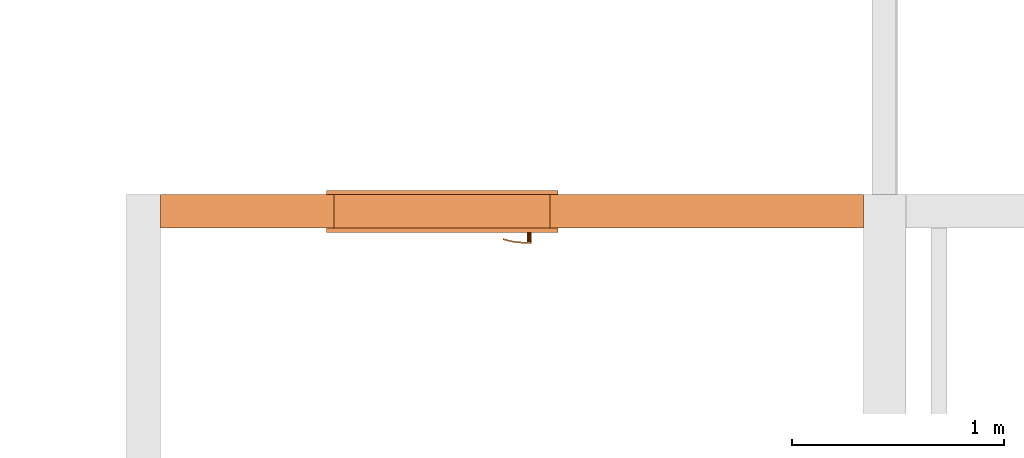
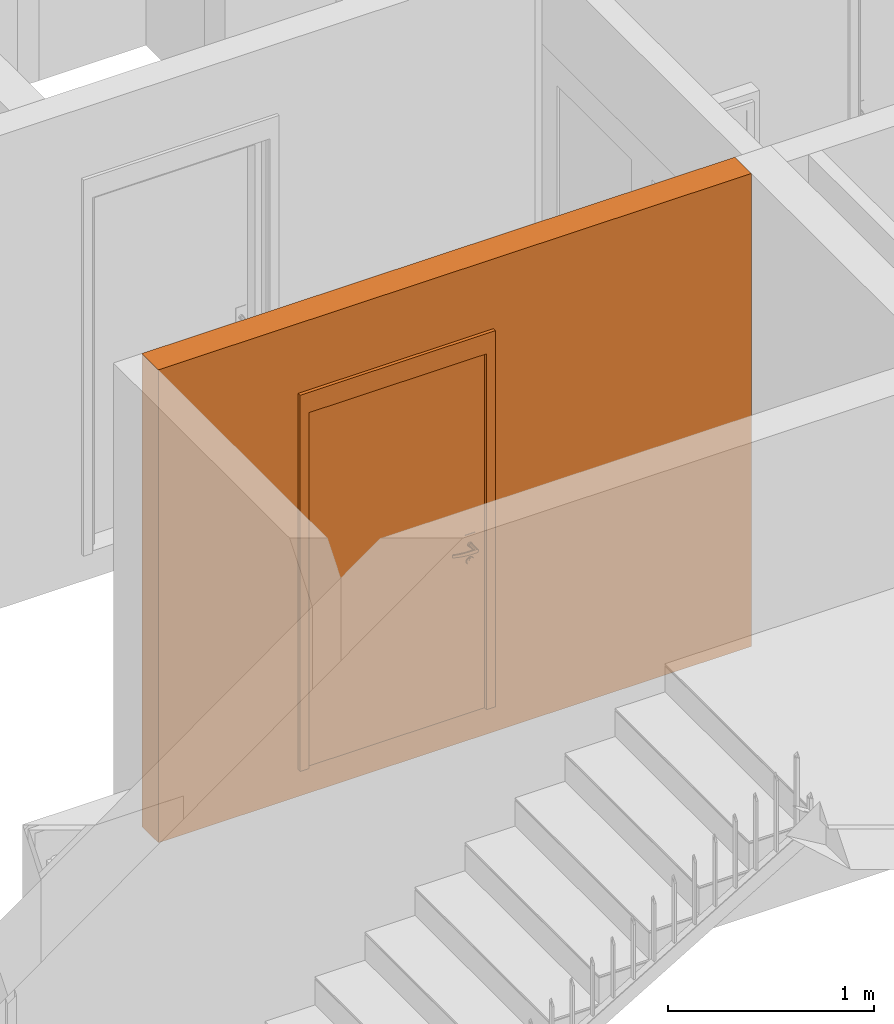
# One storey, part 20 of 64: 2 proxies, 1 opening.
"""IFC2X3 building model written with IfcOpenShell, lengths in millimetres."""

from ifc_helpers import new_model, entity, si_unit, converted_unit, derived_unit, money_unit, direction, frame, origin_with_axes, origin_2d_with_axis, place, context, subcontext, project, spatial, rectangle, extrude, open_shell, faceted_brep, surface_model, source, transform, mapped, material, type_object, element, fill, save


model = new_model("IFC2X3")

# Units and contexts
model_context = context("Model", 3, precision=0.01, world=origin_with_axes(), true_north=direction((0.34421633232, 0.938890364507)))
body_context = subcontext(model_context, "Body", "Model", "MODEL_VIEW")
ifc_project = project(units=[si_unit("LENGTHUNIT", "METRE", prefix="MILLI"), si_unit("AREAUNIT", "SQUARE_METRE"), si_unit("VOLUMEUNIT", "CUBIC_METRE"), converted_unit("PLANEANGLEUNIT", "DEGREE", entity("IfcPlaneAngleMeasure", 0.0174532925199), si_unit("PLANEANGLEUNIT", "RADIAN"), dimensions=[0, 0, 0, 0, 0, 0, 0]), si_unit("SOLIDANGLEUNIT", "STERADIAN"), money_unit("USD"), converted_unit("TIMEUNIT", "Year", entity("IfcTimeMeasure", 31556926.0), si_unit("TIMEUNIT", "SECOND"), dimensions=[0, 0, 1, 0, 0, 0, 0]), si_unit("MASSUNIT", "GRAM", prefix="KILO"), si_unit("THERMODYNAMICTEMPERATUREUNIT", "DEGREE_CELSIUS"), si_unit("LUMINOUSINTENSITYUNIT", "LUMEN"), si_unit("ENERGYUNIT", "JOULE", prefix="MEGA"), derived_unit("THERMALCONDUCTANCEUNIT", [(si_unit("POWERUNIT", "WATT"), 1), (si_unit("LENGTHUNIT", "METRE"), -1), (si_unit("THERMODYNAMICTEMPERATUREUNIT", "KELVIN"), -1)]), derived_unit("SPECIFICHEATCAPACITYUNIT", [(si_unit("ENERGYUNIT", "JOULE"), 1), (si_unit("MASSUNIT", "GRAM", prefix="KILO"), -1), (si_unit("THERMODYNAMICTEMPERATUREUNIT", "KELVIN"), -1)]), derived_unit("MASSDENSITYUNIT", [(si_unit("MASSUNIT", "GRAM", prefix="KILO"), 1), (si_unit("VOLUMEUNIT", "CUBIC_METRE"), -1)])], contexts=[model_context])

# Site, building, storey
site_placement = place(None, origin_with_axes())
site = spatial("IfcSite", under=ifc_project, at=site_placement, Name="USTRONIE MORSKIE", CompositionType="ELEMENT")
building_placement = place(site_placement, origin_with_axes())
building = spatial("IfcBuilding", under=site, at=building_placement, Name="Budynek", CompositionType="ELEMENT")
storey_placement = place(building_placement, frame((0.0, 0.0, 7000.0), z_axis=(0.0, 0.0, 1.0), x_axis=(1.0, 0.0, 0.0)))
storey = spatial("IfcBuildingStorey", under=building, at=storey_placement, Name="PIĘTRO 2", CompositionType="ELEMENT", Elevation=7000.0)

# Proxies, opening
ifc_material = material(Name="Beton konstrukcyjny B25")
building_element_proxy_type_1 = type_object("IfcBuildingElementProxyType", Name="Beton konstrukcyjny B25 160", PredefinedType="NOTDEFINED")
proxy_1_placement = place(storey_placement, frame((396317.920919, 734751.202821, -160.0), z_axis=(0.0, 0.0, 1.0), x_axis=(-1.0, 3.09952838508e-07, 0.0)))
proxy_1 = element("IfcBuildingElementProxy", 1, at=proxy_1_placement, inside=storey, type_object=building_element_proxy_type_1, material=ifc_material, Name="SW-01", context=body_context, shape_type="Brep", body=[
    faceted_brep([(3419.99997519, 80.0, 2800.0), (99.9999751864, 80.0, 2800.0), (100.000024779, -80.0000000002, 2800.0), (3420.00002478, -80.0, 2800.0), (3419.99997519, 80.0, 0.0), (99.9999751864, 80.0, 0.0), (100.000024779, -80.0000000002, 0.0), (3420.00002478, -80.0, 0.0)], [[[0, 1, 2, 3]], [[4, 5, 1, 0]], [[5, 6, 2, 1]], [[3, 2, 6, 7]], [[0, 3, 7, 4]], [[7, 6, 5, 4]]]),
])
opening_placement = place(proxy_1_placement, frame((2090.00061989, 0.0, 160.0), z_axis=(0.0, 0.0, 1.0), x_axis=(1.0, 0.0, 0.0)))
opening = element("IfcOpeningElement", 2, at=opening_placement, cuts=proxy_1, Name="Dw.2", context=body_context, shape_type="SweptSolid", body=[
    extrude(rectangle(XDim=1020.0, YDim=2120.0, at=origin_2d_with_axis()), frame((0.0, -160.0, 1060.0), z_axis=(0.0, 1.0, 0.0), x_axis=(1.0, 0.0, 0.0)), (0.0, 0.0, 1.0), 480.0),
    extrude(rectangle(XDim=1094.0, YDim=2227.0, at=origin_2d_with_axis()), frame((0.0, -80.0000000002, 1113.5), z_axis=(0.0, 1.0, 0.0), x_axis=(1.0, 0.0, 0.0)), (0.0, 0.0, -1.0), 160.0),
    extrude(rectangle(XDim=1094.0, YDim=2227.0, at=origin_2d_with_axis()), frame((0.0, 79.9999999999, 1113.5), z_axis=(0.0, -1.0, 0.0), x_axis=(1.0, 0.0, 0.0)), (0.0, 0.0, -1.0), 160.0),
])
building_element_proxy_type_2 = type_object("IfcBuildingElementProxyType", Name="Drzwi 23", PredefinedType="NOTDEFINED")
shared_shape = source(origin_with_axes(), body_context, "Body", "SurfaceModel", [
    faceted_brep([(-510.0, -115.0, 0.0), (-485.0, -115.0, 0.0), (-485.0, -160.0, 0.0), (-510.0, -160.0, 0.0), (-510.0, -115.0, 2120.0), (-485.0, -115.0, 2095.0), (-485.0, -160.0, 2095.0), (-510.0, -160.0, 2120.0)], [[[0, 1, 2, 3]], [[0, 4, 5, 1]], [[1, 5, 6, 2]], [[3, 2, 6, 7]], [[4, 0, 3, 7]], [[5, 4, 7, 6]]]),
    faceted_brep([(510.0, -115.0, 2120.0), (485.0, -115.0, 2095.0), (485.0, -160.0, 2095.0), (510.0, -160.0, 2120.0), (510.0, -115.0, 0.0), (485.0, -115.0, 0.0), (485.0, -160.0, 0.0), (510.0, -160.0, 0.0)], [[[0, 1, 2, 3]], [[0, 4, 5, 1]], [[1, 5, 6, 2]], [[3, 2, 6, 7]], [[4, 0, 3, 7]], [[5, 4, 7, 6]]]),
    faceted_brep([(-485.0, -115.0, 2095.0), (485.0, -115.0, 2095.0), (485.0, -160.0, 2095.0), (-485.0, -160.0, 2095.0), (-510.0, -115.0, 2120.0), (510.0, -115.0, 2120.0), (510.0, -160.0, 2120.0), (-510.0, -160.0, 2120.0)], [[[0, 1, 2, 3]], [[0, 4, 5, 1]], [[1, 5, 6, 2]], [[3, 2, 6, 7]], [[4, 0, 3, 7]], [[5, 4, 7, 6]]]),
    faceted_brep([(-547.0, -179.0, 0.0), (-547.0, -160.0, 0.0), (-497.0, -160.0, 0.0), (-497.0, -179.0, 0.0), (-547.0, -179.0, 2227.0), (-547.0, -160.0, 2227.0), (-497.0, -160.0, 2107.0), (-497.0, -179.0, 2107.0)], [[[0, 1, 2, 3]], [[4, 5, 1, 0]], [[1, 5, 6, 2]], [[3, 2, 6, 7]], [[0, 3, 7, 4]], [[7, 6, 5, 4]]]),
    faceted_brep([(547.0, -179.0, 2227.0), (547.0, -160.0, 2227.0), (497.0, -160.0, 2107.0), (497.0, -179.0, 2107.0), (547.0, -179.0, 0.0), (547.0, -160.0, 0.0), (497.0, -160.0, 0.0), (497.0, -179.0, 0.0)], [[[0, 1, 2, 3]], [[4, 5, 1, 0]], [[1, 5, 6, 2]], [[3, 2, 6, 7]], [[0, 3, 7, 4]], [[7, 6, 5, 4]]]),
    faceted_brep([(-547.0, -179.0, 2227.0), (-547.0, -160.0, 2227.0), (-497.0, -160.0, 2107.0), (-497.0, -179.0, 2107.0), (547.0, -179.0, 2227.0), (547.0, -160.0, 2227.0), (497.0, -160.0, 2107.0), (497.0, -179.0, 2107.0)], [[[0, 1, 2, 3]], [[4, 5, 1, 0]], [[1, 5, 6, 2]], [[3, 2, 6, 7]], [[0, 3, 7, 4]], [[7, 6, 5, 4]]]),
    faceted_brep([(-547.0, 19.0, 0.0), (-497.0, 19.0, 0.0), (-497.0, 0.0, 0.0), (-547.0, 0.0, 0.0), (-547.0, 19.0, 2227.0), (-497.0, 19.0, 2107.0), (-497.0, 0.0, 2107.0), (-547.0, 0.0, 2227.0)], [[[0, 1, 2, 3]], [[0, 4, 5, 1]], [[1, 5, 6, 2]], [[3, 2, 6, 7]], [[4, 0, 3, 7]], [[5, 4, 7, 6]]]),
    faceted_brep([(547.0, 19.0, 2227.0), (497.0, 19.0, 2107.0), (497.0, 0.0, 2107.0), (547.0, 0.0, 2227.0), (547.0, 19.0, 0.0), (497.0, 19.0, 0.0), (497.0, 0.0, 0.0), (547.0, 0.0, 0.0)], [[[0, 1, 2, 3]], [[0, 4, 5, 1]], [[1, 5, 6, 2]], [[3, 2, 6, 7]], [[4, 0, 3, 7]], [[5, 4, 7, 6]]]),
    faceted_brep([(-547.0, 19.0, 2227.0), (-497.0, 19.0, 2107.0), (-497.0, 0.0, 2107.0), (-547.0, 0.0, 2227.0), (547.0, 19.0, 2227.0), (497.0, 19.0, 2107.0), (497.0, 0.0, 2107.0), (547.0, 0.0, 2227.0)], [[[0, 1, 2, 3]], [[0, 4, 5, 1]], [[1, 5, 6, 2]], [[3, 2, 6, 7]], [[4, 0, 3, 7]], [[5, 4, 7, 6]]]),
    faceted_brep([(-450.0, -40.0, 0.0), (-450.0, -40.0, 2050.0), (-450.0, -115.0, 2050.0), (-450.0, -115.0, 0.0), (-462.0, -40.0, 2050.0), (-462.0, -40.0, 0.0), (-462.0, 0.0, 2050.0), (-510.0, 0.0, 2050.0), (-510.0, -115.0, 2050.0), (-510.0, -115.0, 0.0), (-510.0, 0.0, 0.0), (-462.0, 0.0, 0.0)], [[[0, 1, 2, 3]], [[4, 1, 0, 5]], [[4, 6, 7, 8, 2, 1]], [[3, 2, 8, 9]], [[5, 0, 3, 9, 10, 11]], [[6, 4, 5, 11]], [[6, 11, 10, 7]], [[10, 9, 8, 7]]]),
    faceted_brep([(462.0, -40.0, 2050.0), (450.0, -40.0, 2050.0), (450.0, -115.0, 2050.0), (510.0, -115.0, 2050.0), (510.0, 0.0, 2050.0), (462.0, 0.0, 2050.0), (462.0, -40.0, 0.0), (450.0, -40.0, 0.0), (450.0, -115.0, 0.0), (510.0, -115.0, 0.0), (510.0, 0.0, 0.0), (462.0, 0.0, 0.0)], [[[0, 1, 2, 3, 4, 5]], [[1, 0, 6, 7]], [[1, 7, 8, 2]], [[3, 2, 8, 9]], [[4, 3, 9, 10]], [[11, 5, 4, 10]], [[0, 5, 11, 6]], [[6, 11, 10, 9, 8, 7]]]),
    faceted_brep([(-462.0, 0.0, 2062.0), (-462.0, 0.0, 2050.0), (-510.0, 0.0, 2050.0), (-510.0, 0.0, 2120.0), (510.0, 0.0, 2120.0), (510.0, 0.0, 2050.0), (462.0, 0.0, 2050.0), (462.0, 0.0, 2062.0), (-462.0, -40.0, 2062.0), (-462.0, -40.0, 2050.0), (-450.0, -40.0, 2050.0), (-450.0, -115.0, 2050.0), (-510.0, -115.0, 2050.0), (-510.0, -115.0, 2120.0), (510.0, -115.0, 2120.0), (510.0, -115.0, 2050.0), (462.0, -40.0, 2050.0), (450.0, -115.0, 2050.0), (450.0, -40.0, 2050.0), (462.0, -40.0, 2062.0)], [[[0, 1, 2, 3, 4, 5, 6, 7]], [[1, 0, 8, 9]], [[9, 10, 11, 12, 2, 1]], [[2, 12, 13, 3]], [[3, 13, 14, 4]], [[4, 14, 15, 5]], [[16, 6, 5, 15, 17, 18]], [[7, 6, 16, 19]], [[0, 7, 19, 8]], [[16, 18, 10, 9, 8, 19]], [[10, 18, 17, 11]], [[17, 15, 14, 13, 12, 11]]]),
    faceted_brep([(-440.5, -40.0, 1060.0), (-440.5, -43.0, 1060.0), (-383.5, -43.0, 1060.0), (-383.5, -40.0, 1060.0), (-440.5, -40.0, 870.0), (-440.5, -43.0, 870.0), (-383.5, -43.0, 870.0), (-383.5, -40.0, 870.0)], [[[0, 1, 2, 3]], [[4, 5, 1, 0]], [[1, 5, 6, 2]], [[3, 2, 6, 7]], [[0, 3, 7, 4]], [[7, 6, 5, 4]]]),
    faceted_brep([(-412.0, -104.0, 990.0), (-412.0, -111.0, 990.0), (-417.0, -111.0, 991.339745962), (-417.0, -104.0, 991.339745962), (-387.0, -104.0, 990.0), (-387.0, -111.0, 990.0), (-387.0, -111.0, 1010.0), (-412.0, -111.0, 1010.0), (-417.0, -111.0, 1008.66025404), (-420.660254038, -111.0, 1005.0), (-422.0, -111.0, 1000.0), (-420.660254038, -111.0, 995.0), (-420.660254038, -104.0, 995.0), (-422.0, -104.0, 1000.0), (-420.660254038, -104.0, 1005.0), (-417.0, -104.0, 1008.66025404), (-412.0, -104.0, 1010.0), (-387.0, -104.0, 1010.0)], [[[0, 1, 2, 3]], [[4, 5, 1, 0]], [[1, 5, 6, 7, 8, 9, 10, 11, 2]], [[3, 2, 11, 12]], [[0, 3, 12, 13, 14, 15, 16, 17, 4]], [[17, 6, 5, 4]], [[16, 7, 6, 17]], [[15, 8, 7, 16]], [[14, 9, 8, 15]], [[13, 10, 9, 14]], [[12, 11, 10, 13]]]),
    surface_model("IfcShellBasedSurfaceModel", [(-387.0, -104.0, 1010.0), (-373.596090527, -111.0, 1009.60730092), (-373.901717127, -104.0, 1009.60730092), (-387.0, -111.0, 1010.0), (-346.890283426, -108.663544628, 1008.82190275), (-373.901717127, -104.0, 990.392699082), (-387.0, -104.0, 990.0), (-387.0, -111.0, 990.0), (-373.596090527, -111.0, 990.392699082), (-346.890283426, -108.663544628, 991.178097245), (-347.804837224, -101.716818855, 1008.82190275), (-347.804837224, -101.716818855, 991.178097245), (-320.489735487, -104.008415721, 991.963495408), (-320.489735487, -104.008415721, 1008.03650459), (-322.006256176, -97.1678329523, 1008.03650459), (-322.006256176, -97.1678329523, 991.963495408), (-294.59537082, -97.0700416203, 992.748893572), (-294.59537082, -97.0700416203, 1007.25110643), (-296.702316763, -90.3876628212, 1007.25110643), (-296.702316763, -90.3876628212, 992.748893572), (-286.538795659, -94.1376880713, 993.0), (-286.538795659, -94.1376880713, 1007.0), (-288.829442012, -87.5221707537, 1007.0), (-288.829442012, -87.5221707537, 993.0)], [open_shell([[[0, 1, 2]], [[0, 3, 1]], [[2, 1, 4]], [[0, 2, 5, 6]], [[3, 7, 8, 1]], [[1, 8, 9, 4]], [[2, 4, 10]], [[2, 10, 11, 5]], [[5, 7, 6]], [[5, 8, 7]], [[11, 9, 8]], [[4, 9, 12, 13]], [[10, 4, 13]], [[10, 14, 15, 11]], [[11, 8, 5]], [[15, 9, 11]], [[15, 12, 9]], [[13, 12, 16, 17]], [[10, 13, 14]], [[14, 18, 19, 15]], [[19, 12, 15]], [[19, 16, 12]], [[17, 16, 20, 21]], [[14, 13, 17]], [[14, 17, 18]], [[18, 22, 23, 19]], [[23, 16, 19]], [[23, 20, 16]], [[22, 21, 20, 23]], [[18, 17, 21]], [[18, 21, 22]]])]),
    faceted_brep([(-401.607695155, -53.0, 994.0), (-400.741669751, -43.0, 993.5), (-399.0, -43.0, 1000.0), (-400.0, -53.0, 1000.0), (-406.0, -53.0, 989.607695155), (-405.5, -43.0, 988.741669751), (-412.0, -43.0, 987.0), (-418.5, -43.0, 988.741669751), (-423.258330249, -43.0, 993.5), (-425.0, -43.0, 1000.0), (-423.258330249, -43.0, 1006.5), (-418.5, -43.0, 1011.25833025), (-412.0, -43.0, 1013.0), (-405.5, -43.0, 1011.25833025), (-400.741669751, -43.0, 1006.5), (-401.607695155, -53.0, 1006.0), (-406.0, -53.0, 1010.39230485), (-412.0, -53.0, 1012.0), (-418.0, -53.0, 1010.39230485), (-422.392304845, -53.0, 1006.0), (-424.0, -53.0, 1000.0), (-422.392304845, -53.0, 994.0), (-418.0, -53.0, 989.607695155), (-412.0, -53.0, 988.0)], [[[0, 1, 2, 3]], [[4, 5, 1, 0]], [[2, 1, 5, 6, 7, 8, 9, 10, 11, 12, 13, 14]], [[3, 2, 14, 15]], [[3, 15, 16, 17, 18, 19, 20, 21, 22, 23, 4, 0]], [[23, 6, 5, 4]], [[22, 7, 6, 23]], [[21, 8, 7, 22]], [[20, 9, 8, 21]], [[19, 10, 9, 20]], [[18, 11, 10, 19]], [[17, 12, 11, 18]], [[16, 13, 12, 17]], [[15, 14, 13, 16]]]),
    faceted_brep([(-394.679491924, -47.0, 895.0), (-392.947441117, -43.0, 894.0), (-390.0, -43.0, 905.0), (-392.0, -47.0, 905.0), (-402.0, -47.0, 887.679491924), (-401.0, -43.0, 885.947441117), (-412.0, -43.0, 883.0), (-423.0, -43.0, 885.947441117), (-431.052558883, -43.0, 894.0), (-434.0, -43.0, 905.0), (-431.052558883, -43.0, 916.0), (-423.0, -43.0, 924.052558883), (-412.0, -43.0, 927.0), (-401.0, -43.0, 924.052558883), (-392.947441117, -43.0, 916.0), (-394.679491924, -47.0, 915.0), (-402.0, -47.0, 922.320508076), (-412.0, -47.0, 925.0), (-422.0, -47.0, 922.320508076), (-429.320508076, -47.0, 915.0), (-432.0, -47.0, 905.0), (-429.320508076, -47.0, 895.0), (-422.0, -47.0, 887.679491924), (-412.0, -47.0, 885.0)], [[[0, 1, 2, 3]], [[4, 5, 1, 0]], [[2, 1, 5, 6, 7, 8, 9, 10, 11, 12, 13, 14]], [[3, 2, 14, 15]], [[3, 15, 16, 17, 18, 19, 20, 21, 22, 23, 4, 0]], [[23, 6, 5, 4]], [[22, 7, 6, 23]], [[21, 8, 7, 22]], [[20, 9, 8, 21]], [[19, 10, 9, 20]], [[18, 11, 10, 19]], [[17, 12, 11, 18]], [[16, 13, 12, 17]], [[15, 14, 13, 16]]]),
    faceted_brep([(-407.050252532, -49.0, 909.050252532), (-406.343145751, -47.0, 908.343145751), (-404.0, -47.0, 914.0), (-405.0, -49.0, 914.0), (-412.0, -49.0, 907.0), (-412.0, -47.0, 906.0), (-417.656854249, -47.0, 908.343145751), (-420.0, -47.0, 914.0), (-417.656854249, -47.0, 919.656854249), (-412.0, -47.0, 922.0), (-406.343145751, -47.0, 919.656854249), (-407.050252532, -49.0, 918.949747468), (-412.0, -49.0, 921.0), (-416.949747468, -49.0, 918.949747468), (-419.0, -49.0, 914.0), (-416.949747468, -49.0, 909.050252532)], [[[0, 1, 2, 3]], [[4, 5, 1, 0]], [[2, 1, 5, 6, 7, 8, 9, 10]], [[3, 2, 10, 11]], [[3, 11, 12, 13, 14, 15, 4, 0]], [[15, 6, 5, 4]], [[14, 7, 6, 15]], [[13, 8, 7, 14]], [[12, 9, 8, 13]], [[11, 10, 9, 12]]]),
    faceted_brep([(-412.0, -53.0, 1010.0), (-412.0, -104.0, 1010.0), (-407.0, -104.0, 1008.66025404), (-407.0, -53.0, 1008.66025404), (-417.0, -53.0, 1008.66025404), (-417.0, -104.0, 1008.66025404), (-420.660254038, -104.0, 1005.0), (-422.0, -104.0, 1000.0), (-420.660254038, -104.0, 995.0), (-417.0, -104.0, 991.339745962), (-412.0, -104.0, 990.0), (-407.0, -104.0, 991.339745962), (-403.339745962, -104.0, 995.0), (-402.0, -104.0, 1000.0), (-403.339745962, -104.0, 1005.0), (-403.339745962, -53.0, 1005.0), (-402.0, -53.0, 1000.0), (-403.339745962, -53.0, 995.0), (-407.0, -53.0, 991.339745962), (-412.0, -53.0, 990.0), (-417.0, -53.0, 991.339745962), (-420.660254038, -53.0, 995.0), (-422.0, -53.0, 1000.0), (-420.660254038, -53.0, 1005.0)], [[[0, 1, 2, 3]], [[4, 5, 1, 0]], [[1, 5, 6, 7, 8, 9, 10, 11, 12, 13, 14, 2]], [[3, 2, 14, 15]], [[0, 3, 15, 16, 17, 18, 19, 20, 21, 22, 23, 4]], [[23, 6, 5, 4]], [[22, 7, 6, 23]], [[21, 8, 7, 22]], [[20, 9, 8, 21]], [[19, 10, 9, 20]], [[18, 11, 10, 19]], [[17, 12, 11, 18]], [[16, 13, 12, 17]], [[15, 14, 13, 16]]]),
    faceted_brep([(-440.5, 0.0, 1060.0), (-383.5, 0.0, 1060.0), (-383.5, 3.0, 1060.0), (-440.5, 3.0, 1060.0), (-440.5, 0.0, 870.0), (-383.5, 0.0, 870.0), (-383.5, 3.0, 870.0), (-440.5, 3.0, 870.0)], [[[0, 1, 2, 3]], [[0, 4, 5, 1]], [[1, 5, 6, 2]], [[3, 2, 6, 7]], [[4, 0, 3, 7]], [[5, 4, 7, 6]]]),
    faceted_brep([(-412.0, 64.0, 990.0), (-417.0, 64.0, 991.339745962), (-417.0, 71.0, 991.339745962), (-412.0, 71.0, 990.0), (-387.0, 64.0, 990.0), (-387.0, 64.0, 1010.0), (-412.0, 64.0, 1010.0), (-417.0, 64.0, 1008.66025404), (-420.660254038, 64.0, 1005.0), (-422.0, 64.0, 1000.0), (-420.660254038, 64.0, 995.0), (-420.660254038, 71.0, 995.0), (-422.0, 71.0, 1000.0), (-420.660254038, 71.0, 1005.0), (-417.0, 71.0, 1008.66025404), (-412.0, 71.0, 1010.0), (-387.0, 71.0, 1010.0), (-387.0, 71.0, 990.0)], [[[0, 1, 2, 3]], [[0, 4, 5, 6, 7, 8, 9, 10, 1]], [[1, 10, 11, 2]], [[3, 2, 11, 12, 13, 14, 15, 16, 17]], [[4, 0, 3, 17]], [[5, 4, 17, 16]], [[6, 5, 16, 15]], [[7, 6, 15, 14]], [[8, 7, 14, 13]], [[9, 8, 13, 12]], [[10, 9, 12, 11]]]),
    surface_model("IfcShellBasedSurfaceModel", [(-387.0, 64.0, 1010.0), (-373.901717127, 64.0, 1009.60730092), (-373.596090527, 71.0, 1009.60730092), (-387.0, 64.0, 990.0), (-373.901717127, 64.0, 990.392699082), (-346.890283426, 68.6635446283, 1008.82190275), (-387.0, 71.0, 1010.0), (-387.0, 71.0, 990.0), (-347.804837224, 61.716818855, 991.178097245), (-347.804837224, 61.716818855, 1008.82190275), (-346.890283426, 68.6635446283, 991.178097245), (-373.596090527, 71.0, 990.392699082), (-322.006256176, 57.1678329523, 991.963495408), (-322.006256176, 57.1678329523, 1008.03650459), (-320.489735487, 64.0084157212, 1008.03650459), (-320.489735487, 64.0084157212, 991.963495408), (-296.702316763, 50.3876628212, 992.748893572), (-296.702316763, 50.3876628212, 1007.25110643), (-294.59537082, 57.0700416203, 1007.25110643), (-294.59537082, 57.0700416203, 992.748893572), (-288.829442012, 47.5221707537, 993.0), (-288.829442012, 47.5221707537, 1007.0), (-286.538795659, 54.1376880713, 1007.0), (-286.538795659, 54.1376880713, 993.0)], [open_shell([[[0, 1, 2]], [[0, 3, 4, 1]], [[1, 5, 2]], [[0, 2, 6]], [[4, 3, 7]], [[1, 4, 8, 9]], [[1, 9, 5]], [[2, 5, 10, 11]], [[6, 2, 11, 7]], [[4, 7, 11]], [[8, 4, 11]], [[9, 8, 12, 13]], [[9, 14, 5]], [[5, 14, 15, 10]], [[8, 11, 10]], [[12, 8, 10]], [[13, 12, 16, 17]], [[9, 13, 14]], [[14, 18, 19, 15]], [[12, 10, 15]], [[16, 12, 15]], [[17, 16, 20, 21]], [[13, 17, 18]], [[13, 18, 14]], [[18, 22, 23, 19]], [[16, 15, 19]], [[20, 16, 19]], [[21, 20, 23, 22]], [[17, 21, 22]], [[17, 22, 18]], [[20, 19, 23]]])]),
    faceted_brep([(-401.607695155, 13.0, 994.0), (-400.0, 13.0, 1000.0), (-399.0, 3.0, 1000.0), (-400.741669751, 3.0, 993.5), (-406.0, 13.0, 989.607695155), (-412.0, 13.0, 988.0), (-418.0, 13.0, 989.607695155), (-422.392304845, 13.0, 994.0), (-424.0, 13.0, 1000.0), (-422.392304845, 13.0, 1006.0), (-418.0, 13.0, 1010.39230485), (-412.0, 13.0, 1012.0), (-406.0, 13.0, 1010.39230485), (-401.607695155, 13.0, 1006.0), (-400.741669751, 3.0, 1006.5), (-405.5, 3.0, 1011.25833025), (-412.0, 3.0, 1013.0), (-418.5, 3.0, 1011.25833025), (-423.258330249, 3.0, 1006.5), (-425.0, 3.0, 1000.0), (-423.258330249, 3.0, 993.5), (-418.5, 3.0, 988.741669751), (-412.0, 3.0, 987.0), (-405.5, 3.0, 988.741669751)], [[[0, 1, 2, 3]], [[1, 0, 4, 5, 6, 7, 8, 9, 10, 11, 12, 13]], [[1, 13, 14, 2]], [[2, 14, 15, 16, 17, 18, 19, 20, 21, 22, 23, 3]], [[4, 0, 3, 23]], [[5, 4, 23, 22]], [[6, 5, 22, 21]], [[7, 6, 21, 20]], [[8, 7, 20, 19]], [[9, 8, 19, 18]], [[10, 9, 18, 17]], [[11, 10, 17, 16]], [[12, 11, 16, 15]], [[13, 12, 15, 14]]]),
    faceted_brep([(-394.679491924, 7.0, 895.0), (-392.0, 7.0, 905.0), (-390.0, 3.0, 905.0), (-392.947441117, 3.0, 894.0), (-402.0, 7.0, 887.679491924), (-412.0, 7.0, 885.0), (-422.0, 7.0, 887.679491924), (-429.320508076, 7.0, 895.0), (-432.0, 7.0, 905.0), (-429.320508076, 7.0, 915.0), (-422.0, 7.0, 922.320508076), (-412.0, 7.0, 925.0), (-402.0, 7.0, 922.320508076), (-394.679491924, 7.0, 915.0), (-392.947441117, 3.0, 916.0), (-401.0, 3.0, 924.052558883), (-412.0, 3.0, 927.0), (-423.0, 3.0, 924.052558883), (-431.052558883, 3.0, 916.0), (-434.0, 3.0, 905.0), (-431.052558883, 3.0, 894.0), (-423.0, 3.0, 885.947441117), (-412.0, 3.0, 883.0), (-401.0, 3.0, 885.947441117)], [[[0, 1, 2, 3]], [[1, 0, 4, 5, 6, 7, 8, 9, 10, 11, 12, 13]], [[1, 13, 14, 2]], [[2, 14, 15, 16, 17, 18, 19, 20, 21, 22, 23, 3]], [[4, 0, 3, 23]], [[5, 4, 23, 22]], [[6, 5, 22, 21]], [[7, 6, 21, 20]], [[8, 7, 20, 19]], [[9, 8, 19, 18]], [[10, 9, 18, 17]], [[11, 10, 17, 16]], [[12, 11, 16, 15]], [[13, 12, 15, 14]]]),
    faceted_brep([(-407.050252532, 9.0, 909.050252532), (-405.0, 9.0, 914.0), (-404.0, 7.0, 914.0), (-406.343145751, 7.0, 908.343145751), (-412.0, 9.0, 907.0), (-416.949747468, 9.0, 909.050252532), (-419.0, 9.0, 914.0), (-416.949747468, 9.0, 918.949747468), (-412.0, 9.0, 921.0), (-407.050252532, 9.0, 918.949747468), (-406.343145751, 7.0, 919.656854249), (-412.0, 7.0, 922.0), (-417.656854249, 7.0, 919.656854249), (-420.0, 7.0, 914.0), (-417.656854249, 7.0, 908.343145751), (-412.0, 7.0, 906.0)], [[[0, 1, 2, 3]], [[1, 0, 4, 5, 6, 7, 8, 9]], [[1, 9, 10, 2]], [[2, 10, 11, 12, 13, 14, 15, 3]], [[4, 0, 3, 15]], [[5, 4, 15, 14]], [[6, 5, 14, 13]], [[7, 6, 13, 12]], [[8, 7, 12, 11]], [[9, 8, 11, 10]]]),
    faceted_brep([(-412.0, 13.0, 1010.0), (-407.0, 13.0, 1008.66025404), (-407.0, 64.0, 1008.66025404), (-412.0, 64.0, 1010.0), (-417.0, 13.0, 1008.66025404), (-420.660254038, 13.0, 1005.0), (-422.0, 13.0, 1000.0), (-420.660254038, 13.0, 995.0), (-417.0, 13.0, 991.339745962), (-412.0, 13.0, 990.0), (-407.0, 13.0, 991.339745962), (-403.339745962, 13.0, 995.0), (-402.0, 13.0, 1000.0), (-403.339745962, 13.0, 1005.0), (-403.339745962, 64.0, 1005.0), (-402.0, 64.0, 1000.0), (-403.339745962, 64.0, 995.0), (-407.0, 64.0, 991.339745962), (-412.0, 64.0, 990.0), (-417.0, 64.0, 991.339745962), (-420.660254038, 64.0, 995.0), (-422.0, 64.0, 1000.0), (-420.660254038, 64.0, 1005.0), (-417.0, 64.0, 1008.66025404)], [[[0, 1, 2, 3]], [[0, 4, 5, 6, 7, 8, 9, 10, 11, 12, 13, 1]], [[1, 13, 14, 2]], [[3, 2, 14, 15, 16, 17, 18, 19, 20, 21, 22, 23]], [[4, 0, 3, 23]], [[5, 4, 23, 22]], [[6, 5, 22, 21]], [[7, 6, 21, 20]], [[8, 7, 20, 19]], [[9, 8, 19, 18]], [[10, 9, 18, 17]], [[11, 10, 17, 16]], [[12, 11, 16, 15]], [[13, 12, 15, 14]]]),
    faceted_brep([(462.0, 0.0, 0.0), (462.0, -40.0, 0.0), (-462.0, -40.0, 0.0), (-462.0, 0.0, 0.0), (462.0, 0.0, 2062.0), (462.0, -40.0, 2062.0), (-462.0, -40.0, 2062.0), (-462.0, 0.0, 2062.0)], [[[0, 1, 2, 3]], [[4, 5, 1, 0]], [[1, 5, 6, 2]], [[3, 2, 6, 7]], [[0, 3, 7, 4]], [[7, 6, 5, 4]]]),
])
proxy_2_placement = place(opening_placement, frame((-450.0, 1.13686837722e-10, 0.0), z_axis=(0.0, 0.0, 1.0), x_axis=(1.0, 0.0, 0.0)))
proxy_2 = element("IfcBuildingElementProxy", 3, at=proxy_2_placement, inside=storey, type_object=building_element_proxy_type_2, Name="Dw.2", context=body_context, shape_type="MappedRepresentation", body=[
    mapped(shared_shape, transform((450.0, 79.9999999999, 0.0))),
])
fill(opening, proxy_2)

save(model, "model.ifc")
